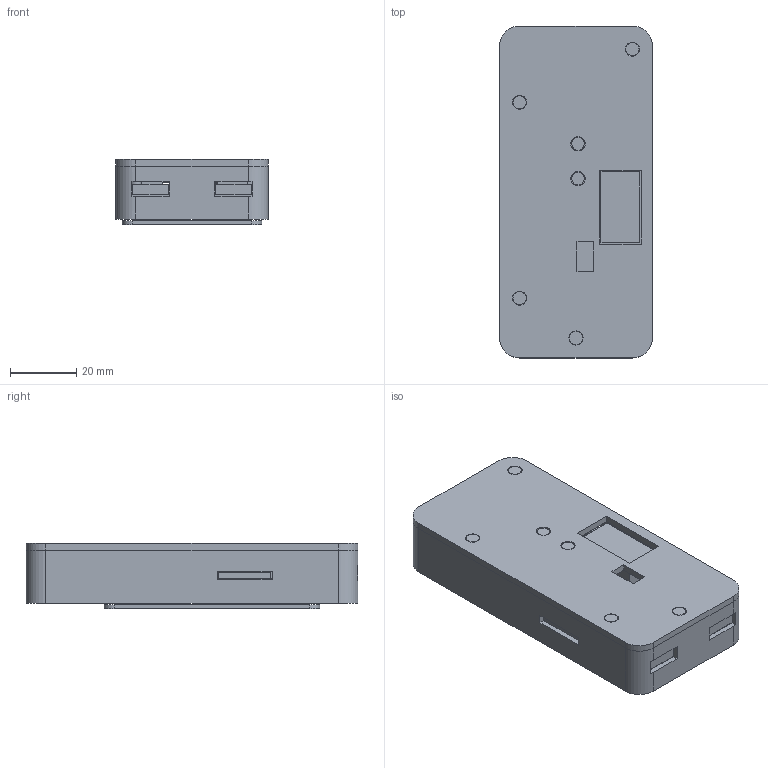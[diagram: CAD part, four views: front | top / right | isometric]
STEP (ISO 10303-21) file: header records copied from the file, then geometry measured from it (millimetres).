
FILE_DESCRIPTION(('Open CASCADE Model'),'2;1');
FILE_NAME('Open CASCADE Shape Model','2026-09-10T00:40:55',('Author'),( 'Open CASCADE'),'Open CASCADE STEP processor 7.8','Open CASCADE 7.8' ,'Unknown');
FILE_SCHEMA(('AUTOMOTIVE_DESIGN { 1 0 10303 214 1 1 1 1 }'));
Length unit declared in the file: millimetre
Products named in the file (410): Open CASCADE STEP translator 7.8 1; Open CASCADE STEP translator 7.8 1.1; Open CASCADE STEP translator 7.8 1.2; Open CASCADE STEP translator 7.8 1.3; Open CASCADE STEP translator 7.8 1.4; Open CASCADE STEP translator 7.8 1.5; Open CASCADE STEP translator 7.8 1.6; Open CASCADE STEP translator 7.8 1.7; Open CASCADE STEP translator 7.8 1.8; Open CASCADE STEP translator 7.8 1.9; Open CASCADE STEP translator 7.8 1.10; Open CASCADE STEP translator 7.8 1.11; Open CASCADE STEP translator 7.8 1.12; Open CASCADE STEP translator 7.8 1.13; Open CASCADE STEP translator 7.8 1.14; Open CASCADE STEP translator 7.8 1.15; Open CASCADE STEP translator 7.8 1.16; Open CASCADE STEP translator 7.8 1.17; Open CASCADE STEP translator 7.8 1.18; Open CASCADE STEP translator 7.8 1.19; Open CASCADE STEP translator 7.8 1.20; Open CASCADE STEP translator 7.8 1.21; Open CASCADE STEP translator 7.8 1.22; Open CASCADE STEP translator 7.8 1.23; Open CASCADE STEP translator 7.8 1.24; Open CASCADE STEP translator 7.8 1.25; Open CASCADE STEP translator 7.8 1.26; Open CASCADE STEP translator 7.8 1.27; Open CASCADE STEP translator 7.8 1.28; Open CASCADE STEP translator 7.8 1.29; Open CASCADE STEP translator 7.8 1.30; Open CASCADE STEP translator 7.8 1.31; Open CASCADE STEP translator 7.8 1.32; Open CASCADE STEP translator 7.8 1.33; Open CASCADE STEP translator 7.8 1.34; Open CASCADE STEP translator 7.8 1.35; Open CASCADE STEP translator 7.8 1.36; Open CASCADE STEP translator 7.8 1.37; Open CASCADE STEP translator 7.8 1.38; Open CASCADE STEP translator 7.8 1.39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
Assembly tree (409 placements, depth 2):
  Open CASCADE STEP translator 7.8 1
    Open CASCADE STEP translator 7.8 1.1
    Open CASCADE STEP translator 7.8 1.2
    Open CASCADE STEP translator 7.8 1.3
    Open CASCADE STEP translator 7.8 1.4
    Open CASCADE STEP translator 7.8 1.5
    Open CASCADE STEP translator 7.8 1.6
    Open CASCADE STEP translator 7.8 1.7
    Open CASCADE STEP translator 7.8 1.8
    Open CASCADE STEP translator 7.8 1.9
    Open CASCADE STEP translator 7.8 1.10
    Open CASCADE STEP translator 7.8 1.11
    Open CASCADE STEP translator 7.8 1.12
    Open CASCADE STEP translator 7.8 1.13
    Open CASCADE STEP translator 7.8 1.14
    Open CASCADE STEP translator 7.8 1.15
    Open CASCADE STEP translator 7.8 1.16
    Open CASCADE STEP translator 7.8 1.17
    Open CASCADE STEP translator 7.8 1.18
    Open CASCADE STEP translator 7.8 1.19
    Open CASCADE STEP translator 7.8 1.20
    Open CASCADE STEP translator 7.8 1.21
    Open CASCADE STEP translator 7.8 1.22
    Open CASCADE STEP translator 7.8 1.23
    Open CASCADE STEP translator 7.8 1.24
    Open CASCADE STEP translator 7.8 1.25
    Open CASCADE STEP translator 7.8 1.26
    Open CASCADE STEP translator 7.8 1.27
    Open CASCADE STEP translator 7.8 1.28
    Open CASCADE STEP translator 7.8 1.29
    Open CASCADE STEP translator 7.8 1.30
    Open CASCADE STEP translator 7.8 1.31
    Open CASCADE STEP translator 7.8 1.32
    Open CASCADE STEP translator 7.8 1.33
    Open CASCADE STEP translator 7.8 1.34
    Open CASCADE STEP translator 7.8 1.35
    Open CASCADE STEP translator 7.8 1.36
    Open CASCADE STEP translator 7.8 1.37
    Open CASCADE STEP translator 7.8 1.38
    Open CASCADE STEP translator 7.8 1.39
    Open CASCADE STEP translator 7.8 1.40
    Open CASCADE STEP translator 7.8 1.41
    Open CASCADE STEP translator 7.8 1.42
    Open CASCADE STEP translator 7.8 1.43
    Open CASCADE STEP translator 7.8 1.44
    Open CASCADE STEP translator 7.8 1.45
    Open CASCADE STEP translator 7.8 1.46
    Open CASCADE STEP translator 7.8 1.47
    Open CASCADE STEP translator 7.8 1.48
    Open CASCADE STEP translator 7.8 1.49
    Open CASCADE STEP translator 7.8 1.50
    Open CASCADE STEP translator 7.8 1.51
    Open CASCADE STEP translator 7.8 1.52
    Open CASCADE STEP translator 7.8 1.53
    Open CASCADE STEP translator 7.8 1.54
    Open CASCADE STEP translator 7.8 1.55
    Open CASCADE STEP translator 7.8 1.56
    Open CASCADE STEP translator 7.8 1.57
    Open CASCADE STEP translator 7.8 1.58
    Open CASCADE STEP translator 7.8 1.59
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Bounding box: 46 x 100 x 19.6 mm (x, y, z)
Volume: 40615 mm3; surface area: 59749.9 mm2
Topology: 409 solids, 409 shells, 2575 faces, 5236 edges, 3488 vertices
Faces by surface type: plane 2493, cylinder 74, cone 8
Full cylindrical faces by diameter (mm): 1.6 x4, 2 x4, 2.4 x8, 3.4 x8, 3.8 x2, 4.2 x2, 4.3 x2, 5.2 x2
Entity records: 140740 total; most frequent: CARTESIAN_POINT 22215, DIRECTION 21808, LINE 15354, VECTOR 15354, ORIENTED_EDGE 10472, PCURVE 10472, DEFINITIONAL_REPRESENTATION 10472, EDGE_CURVE 5236
